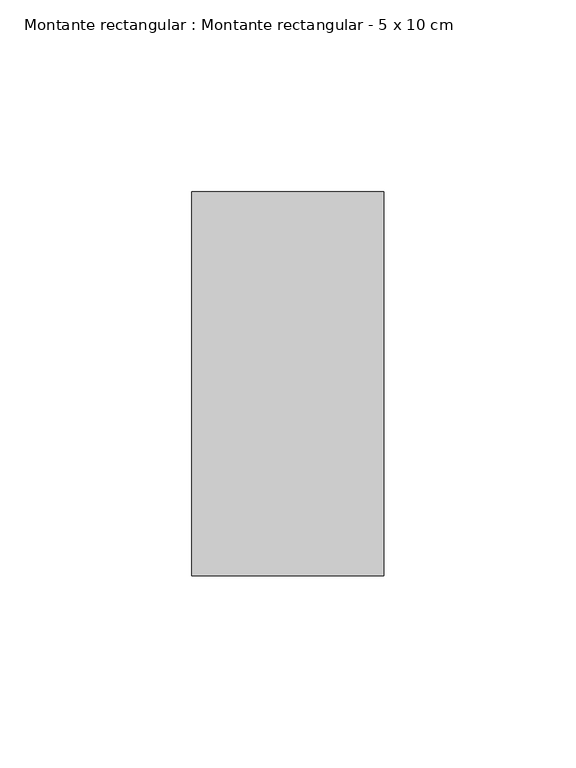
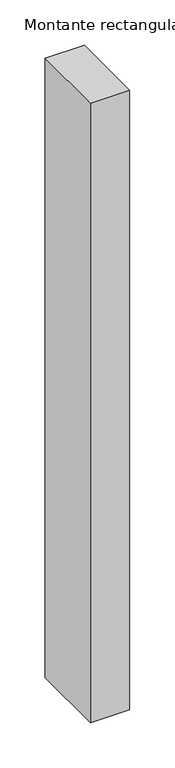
"""IFC4 building model written with IfcOpenShell, lengths in millimetres: member geometry, Montante rectangular : Montante rectangular - 5 x 10 cm."""

from ifc_helpers import new_model, si_unit, frame, origin, place, context, project, spatial, polyline, outline, extrude, source, transform, mapped, element, save


def montante_rectangular_montante_rectangular_5_x_10_cm_c84a6026(model_context):
    return source(origin(), model_context, "Body", "SweptSolid", [
        extrude(outline(polyline([(25.0, 50.0), (25.0, -50.0), (-25.0, -50.0), (-25.0, 50.0), (25.0, 50.0)])), frame((0.0, 0.0, -834.43486), z_axis=(0.0, 0.0, 1.0), x_axis=(1.0, 0.0, 0.0)), (0.0, 0.0, 1.0), 834.43486),
    ])


if __name__ == "__main__":
    model = new_model("IFC4")
    model_context = context("Model", 3, world=origin())
    ifc_project = project(units=[si_unit("LENGTHUNIT", "METRE", prefix="MILLI")], contexts=[model_context])
    site = spatial("IfcSite", under=ifc_project)
    building = spatial("IfcBuilding", under=site)
    placement = place(None, origin())
    montante_rectangular_montante_rectangular_5_x_10_cm_shape = montante_rectangular_montante_rectangular_5_x_10_cm_c84a6026(model_context)
    element("IfcMember", 1, ObjectType="Montante rectangular : Montante rectangular - 5 x 10 cm", at=placement, inside=building, context=model_context, shape_type="MappedRepresentation", body=[
        mapped(montante_rectangular_montante_rectangular_5_x_10_cm_shape, transform((0.0, 0.0, 0.0), x_axis=(1.0, 0.0, 0.0), y_axis=(0.0, 1.0, 0.0), z_axis=(0.0, 0.0, 1.0))),
    ])
    save(model, "model.ifc")
